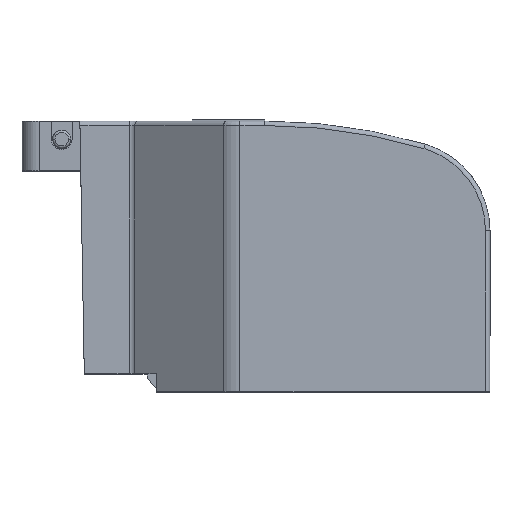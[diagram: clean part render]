
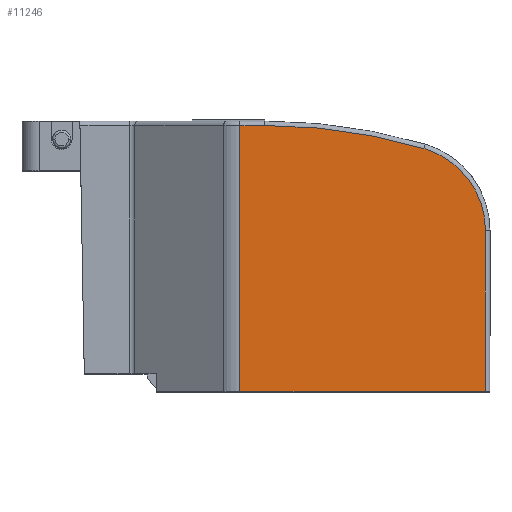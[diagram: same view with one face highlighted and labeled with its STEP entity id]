
A CAD part, top view. The second image highlights one B-rep face of the part: STEP entity #11246.
In plain terms, the highlighted planar face has unit normal (0, 0, 1).
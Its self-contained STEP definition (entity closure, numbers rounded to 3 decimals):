
#1856=CARTESIAN_POINT('',(60.5,-33.063,21.5));
#1857=DIRECTION('',(0.,0.,-1.));
#1858=DIRECTION('',(0.,1.,0.));
#1859=AXIS2_PLACEMENT_3D('',#1856,#1857,#1858);
#1861=CARTESIAN_POINT('',(75.5,17.836,21.5));
#1862=DIRECTION('',(0.,0.,-1.));
#1863=DIRECTION('',(0.283,0.959,0.));
#1864=AXIS2_PLACEMENT_3D('',#1861,#1862,#1863);
#1866=DIRECTION('',(-1.,0.,0.));
#1867=VECTOR('',#1866,27.233);
#1868=CARTESIAN_POINT('',(85.,0.,21.5));
#1869=LINE('',#1868,#1867);
#1870=DIRECTION('',(-1.,0.,0.));
#1871=VECTOR('',#1870,2.733);
#1872=CARTESIAN_POINT('',(60.5,29.5,21.5));
#1873=LINE('',#1872,#1871);
#1893=DIRECTION('',(0.,-1.,0.));
#1894=VECTOR('',#1893,29.5);
#1895=CARTESIAN_POINT('',(57.767,29.5,21.5));
#1896=LINE('',#1895,#1894);
#2477=DIRECTION('',(0.,1.,0.));
#2478=VECTOR('',#2477,17.836);
#2479=CARTESIAN_POINT('',(85.,0.,21.5));
#2480=LINE('',#2479,#2478);
#7385=CARTESIAN_POINT('',(57.767,0.,21.5));
#7386=VERTEX_POINT('',#7385);
#7387=CARTESIAN_POINT('',(85.,0.,21.5));
#7388=VERTEX_POINT('',#7387);
#7469=CARTESIAN_POINT('',(57.767,29.5,21.5));
#7470=VERTEX_POINT('',#7469);
#7471=CARTESIAN_POINT('',(60.5,29.5,21.5));
#7472=VERTEX_POINT('',#7471);
#7473=CARTESIAN_POINT('',(78.186,26.948,21.5));
#7474=VERTEX_POINT('',#7473);
#7475=CARTESIAN_POINT('',(85.,17.836,21.5));
#7476=VERTEX_POINT('',#7475);
#11229=CARTESIAN_POINT('',(49.7,26.,21.5));
#11230=DIRECTION('',(0.,0.,1.));
#11231=DIRECTION('',(1.,0.,0.));
#11232=AXIS2_PLACEMENT_3D('',#11229,#11230,#11231);
#11233=PLANE('',#11232);
#11235=ORIENTED_EDGE('',*,*,#11234,.F.);
#11237=ORIENTED_EDGE('',*,*,#11236,.T.);
#11238=ORIENTED_EDGE('',*,*,#11219,.T.);
#11240=ORIENTED_EDGE('',*,*,#11239,.F.);
#11241=ORIENTED_EDGE('',*,*,#9633,.T.);
#11243=ORIENTED_EDGE('',*,*,#11242,.F.);
#11244=EDGE_LOOP('',(#11235,#11237,#11238,#11240,#11241,#11243));
#11245=FACE_OUTER_BOUND('',#11244,.F.);
#1860=CIRCLE('',#1859,62.563);
#1865=CIRCLE('',#1864,9.5);
#9633=EDGE_CURVE('',#7388,#7386,#1869,.T.);
#11219=EDGE_CURVE('',#7474,#7476,#1865,.T.);
#11234=EDGE_CURVE('',#7472,#7470,#1873,.T.);
#11236=EDGE_CURVE('',#7472,#7474,#1860,.T.);
#11239=EDGE_CURVE('',#7388,#7476,#2480,.T.);
#11242=EDGE_CURVE('',#7470,#7386,#1896,.T.);
#11246=ADVANCED_FACE('',(#11245),#11233,.T.);
